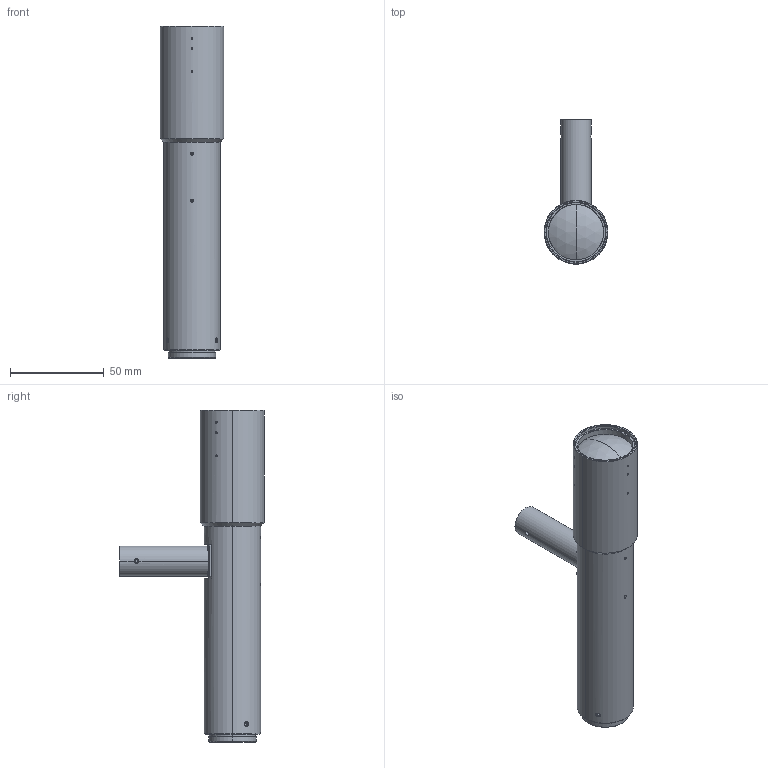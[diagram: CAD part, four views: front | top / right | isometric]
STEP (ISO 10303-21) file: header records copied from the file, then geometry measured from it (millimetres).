
FILE_DESCRIPTION (( 'STEP AP214' ), '1' );
FILE_NAME ('MML8-80D-IR.STEP', '2026-02-18T05:54:09', ( '' ), ( '' ), 'SwSTEP 2.0', 'SolidWorks 2025', '' );
FILE_SCHEMA (( 'AUTOMOTIVE_DESIGN' ));
Length unit declared in the file: millimetre
Products named in the file (1): MML8-80D-IR
Bounding box: 34 x 77 x 176.85 mm (x, y, z)
Volume: 116099.4 mm3; surface area: 29360.9 mm2
Topology: 1 solids, 1 shells, 445 faces, 1064 edges, 652 vertices
Faces by surface type: plane 188, cone 144, cylinder 93, sphere 12, torus 8
Entity records: 13687 total; most frequent: CARTESIAN_POINT 3508, DIRECTION 2158, ORIENTED_EDGE 2112, EDGE_CURVE 1056, AXIS2_PLACEMENT_3D 882, VERTEX_POINT 652, EDGE_LOOP 486, FACE_OUTER_BOUND 445
